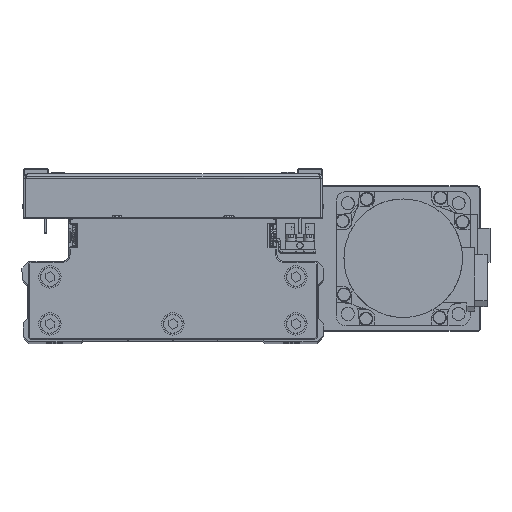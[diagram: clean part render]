
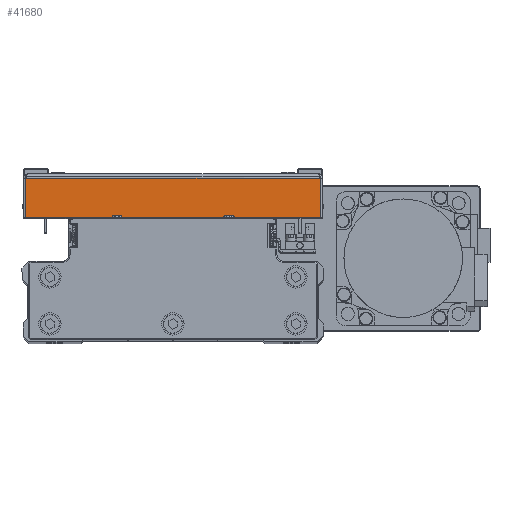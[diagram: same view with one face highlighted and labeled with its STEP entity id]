
A CAD part, top view. The second image highlights one B-rep face of the part: STEP entity #41680.
In plain terms, the highlighted planar face has unit normal (0, 0, 1) as drawn and (1, 0, 0) by its records, which use the part's own axes.
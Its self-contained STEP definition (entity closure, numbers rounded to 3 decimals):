
#531 = DIRECTION ( 'NONE',  ( 0., 1., 0. ) ) ;
#555 = CARTESIAN_POINT ( 'NONE',  ( 100., 18.5, 65.929 ) ) ;
#1037 = CARTESIAN_POINT ( 'NONE',  ( 100., 1., -65.929 ) ) ;
#1337 = VERTEX_POINT ( 'NONE', #555 ) ;
#1973 = ORIENTED_EDGE ( 'NONE', *, *, #17780, .T. ) ;
#3552 = DIRECTION ( 'NONE',  ( -1., 0., 0. ) ) ;
#6856 = FACE_OUTER_BOUND ( 'NONE', #8616, .T. ) ;
#7125 = CARTESIAN_POINT ( 'NONE',  ( 100., 1., 65.929 ) ) ;
#7825 = EDGE_CURVE ( 'NONE', #19693, #23591, #13308, .T. ) ;
#8616 = EDGE_LOOP ( 'NONE', ( #39576, #15983, #1973, #14951 ) ) ;
#10441 = VECTOR ( 'NONE', #531, 1000. ) ;
#10896 = LINE ( 'NONE', #24339, #24909 ) ;
#13308 = LINE ( 'NONE', #26759, #30116 ) ;
#14951 = ORIENTED_EDGE ( 'NONE', *, *, #26369, .F. ) ;
#15757 = LINE ( 'NONE', #29212, #31969 ) ;
#15983 = ORIENTED_EDGE ( 'NONE', *, *, #7825, .T. ) ;
#17014 = DIRECTION ( 'NONE',  ( 0., -1., 0. ) ) ;
#17301 = LINE ( 'NONE', #30744, #10441 ) ;
#17780 = EDGE_CURVE ( 'NONE', #23591, #1337, #10896, .T. ) ;
#18613 = AXIS2_PLACEMENT_3D ( 'NONE', #33764, #3552, #17014 ) ;
#19693 = VERTEX_POINT ( 'NONE', #1037 ) ;
#20306 = PLANE ( 'NONE',  #18613 ) ;
#23591 = VERTEX_POINT ( 'NONE', #26849 ) ;
#24339 = CARTESIAN_POINT ( 'NONE',  ( 100., 18.5, 0. ) ) ;
#24909 = VECTOR ( 'NONE', #37801, 1000. ) ;
#26369 = EDGE_CURVE ( 'NONE', #41305, #1337, #17301, .T. ) ;
#26759 = CARTESIAN_POINT ( 'NONE',  ( 100., 0., -65.929 ) ) ;
#26849 = CARTESIAN_POINT ( 'NONE',  ( 100., 18.5, -65.929 ) ) ;
#29212 = CARTESIAN_POINT ( 'NONE',  ( 100., 1., 67. ) ) ;
#30116 = VECTOR ( 'NONE', #40214, 1000. ) ;
#30744 = CARTESIAN_POINT ( 'NONE',  ( 100., 0., 65.929 ) ) ;
#31969 = VECTOR ( 'NONE', #42675, 1000. ) ;
#33764 = CARTESIAN_POINT ( 'NONE',  ( 100., 0., 0. ) ) ;
#37801 = DIRECTION ( 'NONE',  ( 0., 0., 1. ) ) ;
#39576 = ORIENTED_EDGE ( 'NONE', *, *, #41120, .F. ) ;
#40214 = DIRECTION ( 'NONE',  ( 0., 1., 0. ) ) ;
#41120 = EDGE_CURVE ( 'NONE', #19693, #41305, #15757, .T. ) ;
#41305 = VERTEX_POINT ( 'NONE', #7125 ) ;
#41680 = ADVANCED_FACE ( 'NONE', ( #6856 ), #20306, .F. ) ;
#42675 = DIRECTION ( 'NONE',  ( 0., 0., 1. ) ) ;
